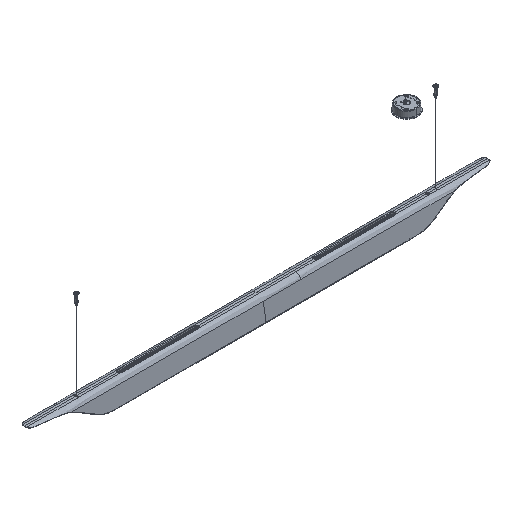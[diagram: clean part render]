
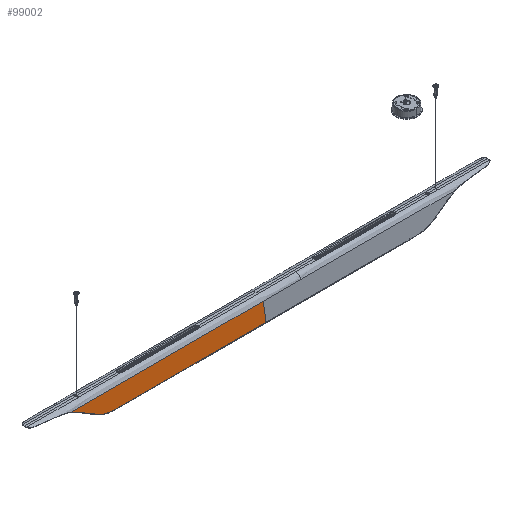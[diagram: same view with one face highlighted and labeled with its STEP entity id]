
A CAD part, isometric view. The second image highlights one B-rep face of the part: STEP entity #99002.
In plain terms, the highlighted planar face has unit normal (0, -0.985, 0.174).
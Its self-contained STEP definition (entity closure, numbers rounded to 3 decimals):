
#758 = CARTESIAN_POINT ( 'NONE',  ( -298., -40.5, 0. ) ) ;
#6355 = CARTESIAN_POINT ( 'NONE',  ( -723.459, -32.342, 46.266 ) ) ;
#8218 = CARTESIAN_POINT ( 'NONE',  ( -730.807, -31.615, 50.392 ) ) ;
#9181 = CARTESIAN_POINT ( 'NONE',  ( -672.322, -37.405, 17.552 ) ) ;
#10112 = CARTESIAN_POINT ( 'NONE',  ( -654.512, -38.859, 9.305 ) ) ;
#10784 = CARTESIAN_POINT ( 'NONE',  ( -298., -40.5, 0. ) ) ;
#11033 = CARTESIAN_POINT ( 'NONE',  ( -723.459, -32.342, 46.266 ) ) ;
#13418 = VERTEX_POINT ( 'NONE', #29293 ) ;
#17296 = CARTESIAN_POINT ( 'NONE',  ( -768.654, -28.426, 68.473 ) ) ;
#20605 = CARTESIAN_POINT ( 'NONE',  ( -738.191, -30.898, 54.455 ) ) ;
#22537 = CARTESIAN_POINT ( 'NONE',  ( -647.303, -39.311, 6.741 ) ) ;
#23397 = CARTESIAN_POINT ( 'NONE',  ( -750.271, -29.788, 60.751 ) ) ;
#23469 = CARTESIAN_POINT ( 'NONE',  ( -622.706, -40.224, 1.566 ) ) ;
#24407 = CARTESIAN_POINT ( 'NONE',  ( -642.059, -39.586, 5.183 ) ) ;
#25328 = CARTESIAN_POINT ( 'NONE',  ( -714.257, -33.262, 41.047 ) ) ;
#25669 = EDGE_CURVE ( 'NONE', #34180, #27214, #37184, .T. ) ;
#27214 = VERTEX_POINT ( 'NONE', #17296 ) ;
#27544 = B_SPLINE_CURVE_WITH_KNOTS ( 'NONE', 3,
 ( #53888, #125964, #137402, #138328, #152560, #153518, #23397, #38644, #37705, #78584, #123184, #183909, #20605, #67107, #8218, #165963, #6355 ),
 .UNSPECIFIED., .F., .F.,
 ( 4, 2, 2, 1, 2, 2, 2, 2, 4 ),
 ( 0., 12.533, 15.666, 18.799, 25.066, 28.199, 31.332, 37.599, 50.132 ),
 .UNSPECIFIED. ) ;
#29293 = CARTESIAN_POINT ( 'NONE',  ( -571., -40.5, 0. ) ) ;
#29460 = EDGE_CURVE ( 'NONE', #27214, #96031, #27544, .T. ) ;
#33730 = EDGE_CURVE ( 'NONE', #13418, #96031, #63310, .T. ) ;
#34180 = VERTEX_POINT ( 'NONE', #101063 ) ;
#36846 = CARTESIAN_POINT ( 'NONE',  ( -596.383, -40.478, 0.123 ) ) ;
#37184 = LINE ( 'NONE', #124522, #84690 ) ;
#37705 = CARTESIAN_POINT ( 'NONE',  ( -744.703, -30.287, 57.923 ) ) ;
#37772 = CARTESIAN_POINT ( 'NONE',  ( -656.533, -38.715, 10.123 ) ) ;
#38644 = CARTESIAN_POINT ( 'NONE',  ( -747.499, -30.033, 59.363 ) ) ;
#38723 = CARTESIAN_POINT ( 'NONE',  ( -650.413, -39.127, 7.788 ) ) ;
#39667 = CARTESIAN_POINT ( 'NONE',  ( -706.657, -34.028, 36.704 ) ) ;
#42867 = EDGE_CURVE ( 'NONE', #13418, #137298, #160360, .T. ) ;
#52100 = CARTESIAN_POINT ( 'NONE',  ( -581.834, -40.5, 0. ) ) ;
#53021 = CARTESIAN_POINT ( 'NONE',  ( -605.226, -40.435, 0.369 ) ) ;
#53888 = CARTESIAN_POINT ( 'NONE',  ( -768.654, -28.426, 68.473 ) ) ;
#53954 = CARTESIAN_POINT ( 'NONE',  ( -691.485, -35.554, 28.051 ) ) ;
#56024 = DIRECTION ( 'NONE',  ( 1., 0., 0. ) ) ;
#58017 = AXIS2_PLACEMENT_3D ( 'NONE', #10784, #126719, #184661 ) ;
#63310 = B_SPLINE_CURVE_WITH_KNOTS ( 'NONE', 3,
 ( #139293, #52100, #96674, #167911, #36846, #95758, #53021, #166981, #153592, #94823, #84238, #23469, #168838, #140244, #154508, #24407, #184923, #22537, #80507, #38723, #155459, #10112, #37772, #68112, #125120, #126036, #98533, #9181, #67173, #69991, #109918, #183981, #53954, #142071, #111795, #156388, #169771, #39667, #112737, #25328, #83288, #141156, #170697, #11033 ),
 .UNSPECIFIED., .F., .F.,
 ( 4, 2, 2, 2, 2, 2, 2, 2, 2, 2, 2, 2, 2, 2, 2, 2, 2, 2, 2, 2, 2, 4 ),
 ( 50.546, 63.676, 76.806, 83.371, 89.938, 96.505, 103.071, 116.198, 122.769, 126.053, 129.337, 135.895, 142.453, 149.012, 155.57, 168.724, 175.307, 181.89, 188.441, 195.014, 208.208, 210.023 ),
 .UNSPECIFIED. ) ;
#67107 = CARTESIAN_POINT ( 'NONE',  ( -736.342, -31.077, 53.443 ) ) ;
#67173 = CARTESIAN_POINT ( 'NONE',  ( -674.256, -37.228, 18.559 ) ) ;
#68112 = CARTESIAN_POINT ( 'NONE',  ( -660.545, -38.411, 11.846 ) ) ;
#69991 = CARTESIAN_POINT ( 'NONE',  ( -680.042, -36.685, 21.636 ) ) ;
#71969 = VECTOR ( 'NONE', #56024, 1000. ) ;
#76630 = LINE ( 'NONE', #149654, #120722 ) ;
#78584 = CARTESIAN_POINT ( 'NONE',  ( -743.766, -30.373, 57.434 ) ) ;
#79327 = EDGE_CURVE ( 'NONE', #137298, #34180, #76630, .T. ) ;
#80198 = ORIENTED_EDGE ( 'NONE', *, *, #33730, .F. ) ;
#80507 = CARTESIAN_POINT ( 'NONE',  ( -648.343, -39.252, 7.08 ) ) ;
#83288 = CARTESIAN_POINT ( 'NONE',  ( -718.067, -32.879, 43.219 ) ) ;
#84238 = CARTESIAN_POINT ( 'NONE',  ( -618.347, -40.301, 1.131 ) ) ;
#84520 = ORIENTED_EDGE ( 'NONE', *, *, #79327, .T. ) ;
#84690 = VECTOR ( 'NONE', #128222, 1000. ) ;
#94823 = CARTESIAN_POINT ( 'NONE',  ( -616.165, -40.332, 0.955 ) ) ;
#95758 = CARTESIAN_POINT ( 'NONE',  ( -603.059, -40.448, 0.297 ) ) ;
#96031 = VERTEX_POINT ( 'NONE', #101814 ) ;
#96674 = CARTESIAN_POINT ( 'NONE',  ( -582.418, -40.499, 0.006 ) ) ;
#98533 = CARTESIAN_POINT ( 'NONE',  ( -668.43, -37.753, 15.581 ) ) ;
#99002 = ADVANCED_FACE ( 'NONE', ( #124852 ), #140898, .T. ) ;
#101063 = CARTESIAN_POINT ( 'NONE',  ( 0., -28.426, 68.473 ) ) ;
#101814 = CARTESIAN_POINT ( 'NONE',  ( -723.459, -32.342, 46.266 ) ) ;
#104138 = DIRECTION ( 'NONE',  ( 0., 0.174, 0.985 ) ) ;
#109918 = CARTESIAN_POINT ( 'NONE',  ( -683.865, -36.311, 23.756 ) ) ;
#111795 = CARTESIAN_POINT ( 'NONE',  ( -697.191, -34.982, 31.295 ) ) ;
#112737 = CARTESIAN_POINT ( 'NONE',  ( -708.553, -33.837, 37.788 ) ) ;
#120722 = VECTOR ( 'NONE', #104138, 1000. ) ;
#123184 = CARTESIAN_POINT ( 'NONE',  ( -741.903, -30.546, 56.45 ) ) ;
#124522 = CARTESIAN_POINT ( 'NONE',  ( -298., -28.426, 68.473 ) ) ;
#124852 = FACE_OUTER_BOUND ( 'NONE', #184769, .T. ) ;
#125120 = CARTESIAN_POINT ( 'NONE',  ( -662.53, -38.252, 12.749 ) ) ;
#125964 = CARTESIAN_POINT ( 'NONE',  ( -764.669, -28.674, 67.071 ) ) ;
#126036 = CARTESIAN_POINT ( 'NONE',  ( -666.474, -37.923, 14.618 ) ) ;
#126719 = DIRECTION ( 'NONE',  ( 0., -0.985, 0.174 ) ) ;
#128222 = DIRECTION ( 'NONE',  ( -1., 0., 0. ) ) ;
#128971 = CARTESIAN_POINT ( 'NONE',  ( 0., -40.5, 0. ) ) ;
#137298 = VERTEX_POINT ( 'NONE', #128971 ) ;
#137402 = CARTESIAN_POINT ( 'NONE',  ( -760.76, -28.949, 65.512 ) ) ;
#138328 = CARTESIAN_POINT ( 'NONE',  ( -755.934, -29.324, 63.385 ) ) ;
#139293 = CARTESIAN_POINT ( 'NONE',  ( -571., -40.5, 0. ) ) ;
#140244 = CARTESIAN_POINT ( 'NONE',  ( -631.38, -40.013, 2.761 ) ) ;
#140898 = PLANE ( 'NONE',  #58017 ) ;
#141156 = CARTESIAN_POINT ( 'NONE',  ( -722.409, -32.446, 45.674 ) ) ;
#142071 = CARTESIAN_POINT ( 'NONE',  ( -695.29, -35.173, 30.212 ) ) ;
#145379 = ORIENTED_EDGE ( 'NONE', *, *, #29460, .T. ) ;
#149654 = CARTESIAN_POINT ( 'NONE',  ( 0., -40.5, 0. ) ) ;
#151314 = ORIENTED_EDGE ( 'NONE', *, *, #42867, .T. ) ;
#152560 = CARTESIAN_POINT ( 'NONE',  ( -754.977, -29.4, 62.953 ) ) ;
#153518 = CARTESIAN_POINT ( 'NONE',  ( -753.084, -29.554, 62.079 ) ) ;
#153592 = CARTESIAN_POINT ( 'NONE',  ( -611.794, -40.382, 0.667 ) ) ;
#154508 = CARTESIAN_POINT ( 'NONE',  ( -635.687, -39.867, 3.592 ) ) ;
#155459 = CARTESIAN_POINT ( 'NONE',  ( -651.442, -39.062, 8.157 ) ) ;
#156388 = CARTESIAN_POINT ( 'NONE',  ( -700.982, -34.6, 33.458 ) ) ;
#160360 = LINE ( 'NONE', #758, #71969 ) ;
#160436 = ORIENTED_EDGE ( 'NONE', *, *, #25669, .T. ) ;
#165963 = CARTESIAN_POINT ( 'NONE',  ( -727.129, -31.977, 48.336 ) ) ;
#166981 = CARTESIAN_POINT ( 'NONE',  ( -609.609, -40.402, 0.554 ) ) ;
#167911 = CARTESIAN_POINT ( 'NONE',  ( -592.363, -40.488, 0.067 ) ) ;
#168838 = CARTESIAN_POINT ( 'NONE',  ( -624.878, -40.178, 1.825 ) ) ;
#169771 = CARTESIAN_POINT ( 'NONE',  ( -702.872, -34.41, 34.539 ) ) ;
#170697 = CARTESIAN_POINT ( 'NONE',  ( -722.934, -32.394, 45.97 ) ) ;
#183909 = CARTESIAN_POINT ( 'NONE',  ( -740.973, -30.634, 55.953 ) ) ;
#183981 = CARTESIAN_POINT ( 'NONE',  ( -689.582, -35.744, 26.973 ) ) ;
#184661 = DIRECTION ( 'NONE',  ( 0., 0.174, 0.985 ) ) ;
#184769 = EDGE_LOOP ( 'NONE', ( #145379, #80198, #151314, #84520, #160436 ) ) ;
#184923 = CARTESIAN_POINT ( 'NONE',  ( -644.165, -39.483, 5.77 ) ) ;
